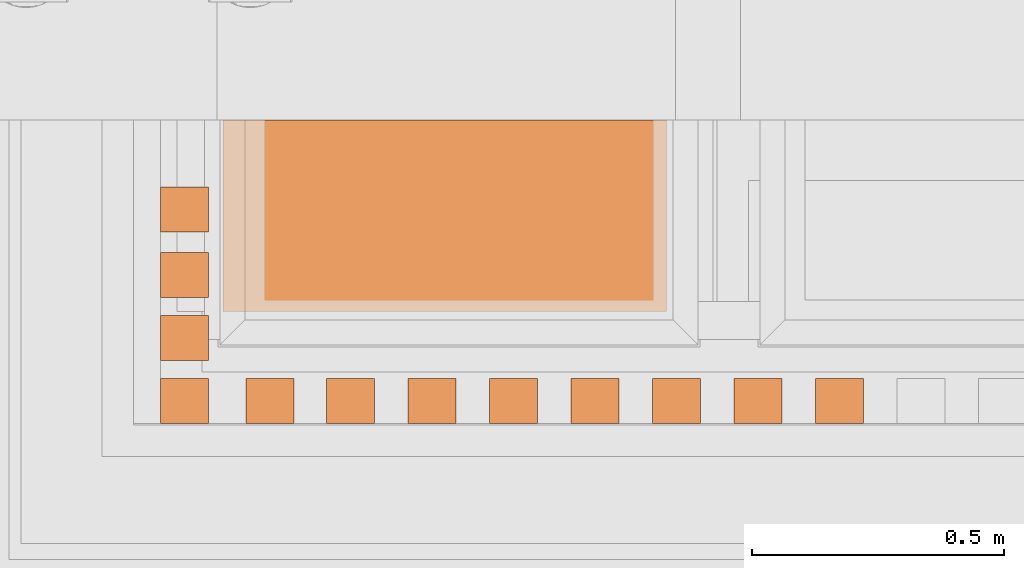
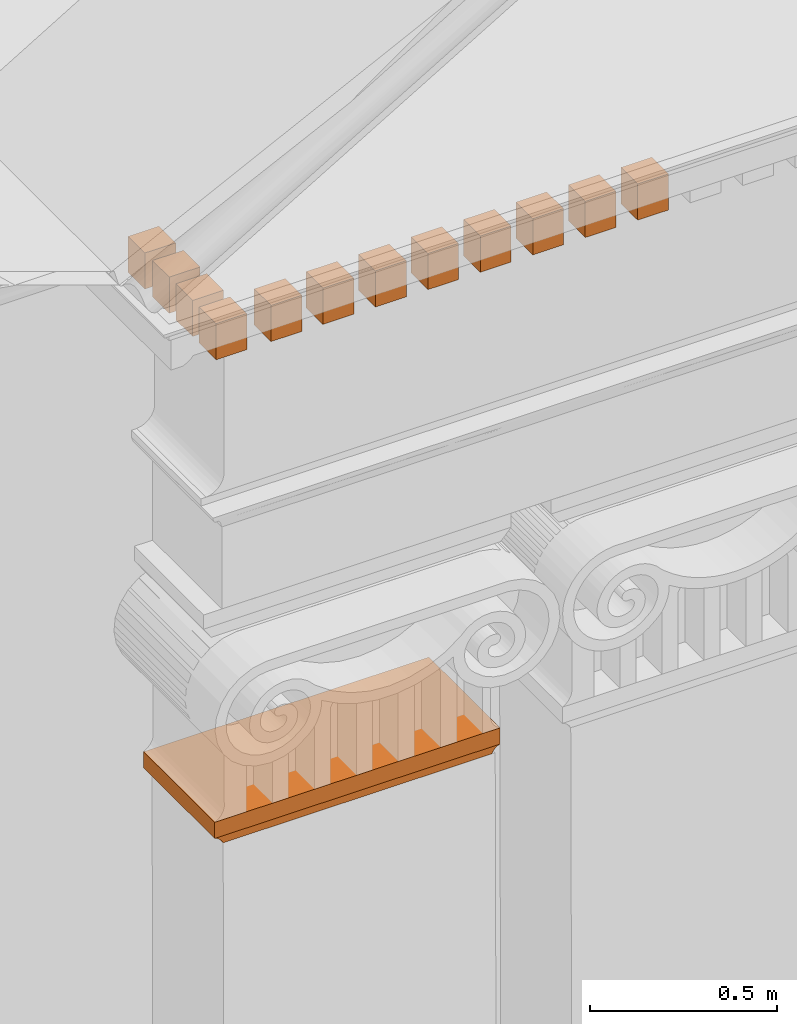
# One storey, part 15 of 44: 14 proxies.
"""IFC2X3 building model written with IfcOpenShell, lengths in metres."""

from ifc_helpers import new_model, entity, si_unit, converted_unit, derived_unit, direction, frame, frame_2d, origin, place, context, subcontext, project, spatial, polyline, circle_curve, parameter, trimmed, segment, composite_curve, rectangle, outline, extrude, material, element, save


model = new_model("IFC2X3")

# Units and contexts
model_context = context("Model", 3, precision=1e-05, world=origin(), true_north=direction((6.12303176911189e-17, 1.0)))
body_context = subcontext(model_context, "Body", "Model", "MODEL_VIEW")
ifc_project = project(units=[si_unit("LENGTHUNIT", "METRE"), si_unit("AREAUNIT", "SQUARE_METRE"), si_unit("VOLUMEUNIT", "CUBIC_METRE"), converted_unit("PLANEANGLEUNIT", "DEGREE", entity("IfcRatioMeasure", 0.0174532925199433), si_unit("PLANEANGLEUNIT", "RADIAN"), dimensions=[0, 0, 0, 0, 0, 0, 0]), si_unit("MASSUNIT", "GRAM", prefix="KILO"), derived_unit("MASSDENSITYUNIT", [(si_unit("MASSUNIT", "GRAM", prefix="KILO"), 1), (si_unit("LENGTHUNIT", "METRE"), -3)]), si_unit("TIMEUNIT", "SECOND"), si_unit("FREQUENCYUNIT", "HERTZ"), si_unit("THERMODYNAMICTEMPERATUREUNIT", "DEGREE_CELSIUS"), derived_unit("THERMALTRANSMITTANCEUNIT", [(si_unit("MASSUNIT", "GRAM", prefix="KILO"), 1), (si_unit("THERMODYNAMICTEMPERATUREUNIT", "KELVIN"), -1), (si_unit("TIMEUNIT", "SECOND"), -3)]), derived_unit("VOLUMETRICFLOWRATEUNIT", [(si_unit("LENGTHUNIT", "METRE"), 3), (si_unit("TIMEUNIT", "SECOND"), -1)]), si_unit("ELECTRICCURRENTUNIT", "AMPERE"), si_unit("ELECTRICVOLTAGEUNIT", "VOLT"), si_unit("POWERUNIT", "WATT"), si_unit("FORCEUNIT", "NEWTON", prefix="KILO"), si_unit("ILLUMINANCEUNIT", "LUX"), si_unit("LUMINOUSFLUXUNIT", "LUMEN"), si_unit("LUMINOUSINTENSITYUNIT", "CANDELA"), derived_unit("USERDEFINED", [(si_unit("MASSUNIT", "GRAM", prefix="KILO"), -1), (si_unit("LENGTHUNIT", "METRE"), -2), (si_unit("TIMEUNIT", "SECOND"), 3), (si_unit("LUMINOUSFLUXUNIT", "LUMEN"), 1)]), derived_unit("LINEARVELOCITYUNIT", [(si_unit("LENGTHUNIT", "METRE"), 1), (si_unit("TIMEUNIT", "SECOND"), -1)]), si_unit("PRESSUREUNIT", "PASCAL"), derived_unit("USERDEFINED", [(si_unit("LENGTHUNIT", "METRE"), -2), (si_unit("MASSUNIT", "GRAM", prefix="KILO"), 1), (si_unit("TIMEUNIT", "SECOND"), -2)])], contexts=[model_context])

# Site, building, storey
site_placement = place(None, origin())
site = spatial("IfcSite", under=ifc_project, at=site_placement, Name="Default", CompositionType="ELEMENT")
building_placement = place(site_placement, origin())
building = spatial("IfcBuilding", under=site, at=building_placement, CompositionType="ELEMENT")
storey_placement = place(building_placement, origin())
storey = spatial("IfcBuildingStorey", under=building, at=storey_placement, Name="Livello 1", CompositionType="ELEMENT", Elevation=0.0)

# Proxies
proxy_1_placement = place(storey_placement, frame((-4.85170417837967, 0.883372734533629, 20.9111265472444)))
element("IfcBuildingElementProxy", 1, at=proxy_1_placement, inside=storey, Name="Stratigrafia", context=body_context, shape_type="SweptSolid", body=[
    extrude(outline(composite_curve([segment(polyline([(-0.123759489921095, 0.395360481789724), (0.101421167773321, -0.401671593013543)]), True, "CONTINUOUS"), segment(trimmed(circle_curve(frame_2d((0.0968904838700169, -0.441245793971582), x_axis=(0.85216090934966, 0.523279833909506)), 0.0398327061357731), [parameter(1.99993278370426e-11)], [parameter(51.9163679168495)], True, "PARAMETER"), False, "CONTINUOUS"), segment(polyline([(0.130834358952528, -0.420402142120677), (-0.108496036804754, 0.426713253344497)]), True, "CONTINUOUS"), segment(trimmed(circle_curve(frame_2d((-0.148328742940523, 0.426713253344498), x_axis=(1.0, 0.0)), 0.039832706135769), [parameter(308.083632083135)], [parameter(359.999999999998)], True, "PARAMETER"), False, "CONTINUOUS")], self_intersect=False)), frame((0.441732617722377, 0.0, 0.0132016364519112), z_axis=(0.0, -1.0, 0.0), x_axis=(0.271881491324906, 0.0, 0.962330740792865)), (0.0, 0.0, -1.0), 0.38),
])
proxy_2_placement = place(storey_placement, frame((-4.85010890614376, 0.883372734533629, 20.9359345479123)))
element("IfcBuildingElementProxy", 2, at=proxy_2_placement, inside=storey, Name="Stratigrafia", context=body_context, shape_type="SweptSolid", body=[
    extrude(rectangle(XDim=0.052818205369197, YDim=0.38, at=frame_2d((1.2490009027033e-16, -2.16666962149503e-15), x_axis=(0.0, 1.0))), frame((0.0, 0.19, 0.0264091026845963), z_axis=(1.0, 0.0, 0.0), x_axis=(0.0, 1.0, 0.0)), (0.0, 0.0, 1.0), 0.880274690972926),
])
ifc_material = material(Name="Piperno")
for number, where in (
    (3, (-3.67398826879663, 0.661139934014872, 22.6747581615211)),
    (4, (-3.83576722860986, 0.661139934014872, 22.6747581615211)),
    (5, (-3.9975461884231, 0.661139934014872, 22.6747581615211)),
    (6, (-4.15932514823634, 0.661139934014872, 22.6747581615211)),
    (7, (-4.32110410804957, 0.661139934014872, 22.6747581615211)),
    (8, (-4.48288306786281, 0.661139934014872, 22.6747581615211)),
    (9, (-4.64466202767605, 0.661139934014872, 22.6747581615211)),
    (10, (-4.80466607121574, 0.661139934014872, 22.6747581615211)),
    (11, (-4.97423004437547, 0.661139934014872, 22.6747581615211)),
):
    element("IfcBuildingElementProxy", number, at=place(storey_placement, frame(where)), inside=storey, material=ifc_material, Name="Stratigrafia", context=body_context, shape_type="SweptSolid", body=[
        extrude(rectangle(XDim=0.117802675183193, YDim=0.0898173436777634, at=frame_2d((6.59194920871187e-17, 0.0), x_axis=(0.0, 1.0))), frame((0.0, 0.0449086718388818, 0.0589013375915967), z_axis=(1.0, 0.0, 0.0), x_axis=(0.0, 1.0, 0.0)), (0.0, 0.0, 1.0), 0.0951819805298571),
    ])
proxy_3_placement = place(storey_placement, frame((-4.97423004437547, 0.786139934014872, 22.6747581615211)))
element("IfcBuildingElementProxy", 12, at=proxy_3_placement, inside=storey, material=ifc_material, Name="Stratigrafia", context=body_context, shape_type="SweptSolid", body=[
    extrude(rectangle(XDim=0.117802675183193, YDim=0.0898173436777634, at=frame_2d((-6.59194920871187e-17, 0.0), x_axis=(0.0, 1.0))), frame((0.0, 0.0449086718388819, 0.0589013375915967), z_axis=(1.0, 0.0, 0.0), x_axis=(0.0, 1.0, 0.0)), (0.0, 0.0, 1.0), 0.0951819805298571),
])
proxy_4_placement = place(storey_placement, frame((-4.97423004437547, 0.911139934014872, 22.6747581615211)))
element("IfcBuildingElementProxy", 13, at=proxy_4_placement, inside=storey, material=ifc_material, Name="Stratigrafia", context=body_context, shape_type="SweptSolid", body=[
    extrude(rectangle(XDim=0.117802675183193, YDim=0.0898173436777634, at=frame_2d((-6.59194920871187e-17, 0.0), x_axis=(0.0, 1.0))), frame((0.0, 0.0449086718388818, 0.0589013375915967), z_axis=(1.0, 0.0, 0.0), x_axis=(0.0, 1.0, 0.0)), (0.0, 0.0, 1.0), 0.0951819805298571),
])
proxy_5_placement = place(storey_placement, frame((-4.97423004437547, 1.04113993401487, 22.6747581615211)))
element("IfcBuildingElementProxy", 14, at=proxy_5_placement, inside=storey, material=ifc_material, Name="Stratigrafia", context=body_context, shape_type="SweptSolid", body=[
    extrude(rectangle(XDim=0.117802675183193, YDim=0.0898173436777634, at=frame_2d((6.59194920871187e-17, 0.0), x_axis=(0.0, 1.0))), frame((0.0, 0.0449086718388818, 0.0589013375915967), z_axis=(1.0, 0.0, 0.0), x_axis=(0.0, 1.0, 0.0)), (0.0, 0.0, 1.0), 0.0951819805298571),
])

save(model, "model.ifc")
